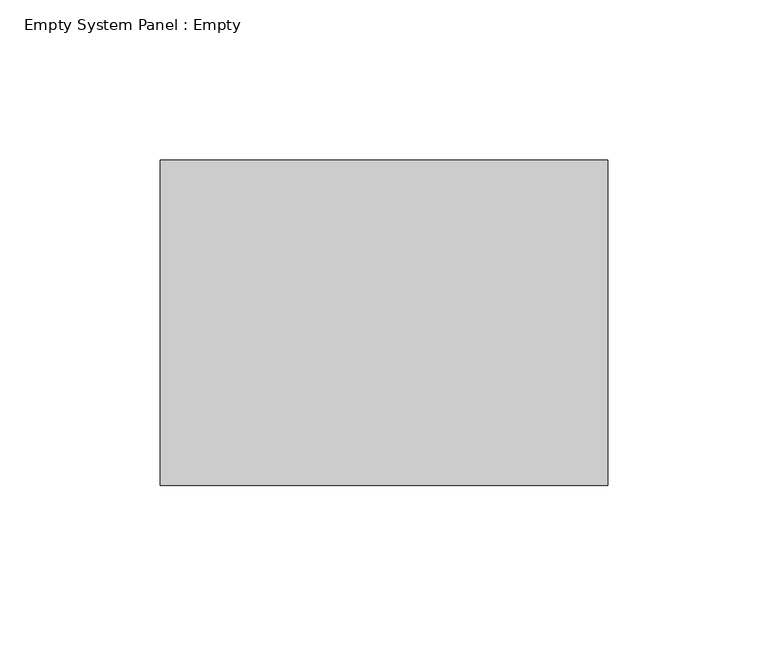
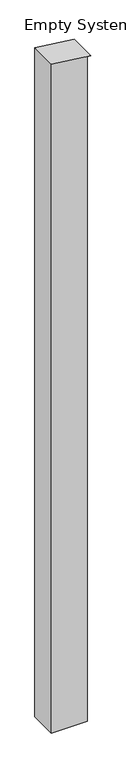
"""IFC4 building model written with IfcOpenShell, lengths in millimetres: plate geometry, Empty System Panel : Empty."""

import ifcopenshell
import ifcopenshell.guid

model = None  # the IFC model being written
_history = None  # IfcOwnerHistory: only IFC2X3 demands one
_inside = {}  # id of a spatial element -> (the spatial element, [elements in it])
_under = {}  # id of a project, library or spatial element -> (it, [spatial elements below it])
_declared = {}  # id of a project -> (the project, [libraries it declares])
_typed = {}  # id of a type object -> (the type object, [elements of that type])
_made_of = {}  # id of a material, layer set ... -> (it, [elements and type objects made of it])


def new_model(schema):
    """Start an empty IFC model of exactly this schema.

    Asked for "IFC4X3", IfcOpenShell would pick the latest addendum, in which some entities
    have other attributes; the version numbers below select the first issue.
    IFC2X3 requires an IfcOwnerHistory on every rooted entity: one is made here for all.
    """
    global model, _history
    if schema == "IFC4X3":
        model = ifcopenshell.file(schema_version=(4, 3, 0, 0))
    else:
        model = ifcopenshell.file(schema=schema)
    _inside.clear()
    _under.clear()
    _declared.clear()
    _typed.clear()
    _made_of.clear()
    _history = None
    if model.schema == "IFC2X3":
        org = make("IfcOrganization", Name="unknown")
        user = make(
            "IfcPersonAndOrganization",
            ThePerson=make("IfcPerson", FamilyName="unknown"),
            TheOrganization=org,
        )
        app = make(
            "IfcApplication",
            ApplicationDeveloper=org,
            Version="unknown",
            ApplicationFullName="unknown",
            ApplicationIdentifier="unknown",
        )
        _history = make(
            "IfcOwnerHistory",
            OwningUser=user,
            OwningApplication=app,
            ChangeAction="ADDED",
            CreationDate=0,
        )
    return model


def make(cls, **values):
    """One entity of the class cls with the attributes given. An attribute that is None is left unset."""
    return model.create_entity(
        cls, **{name: value for name, value in values.items() if value is not None}
    )


def rooted(cls, **values):
    """An entity with a GlobalId (a new one), such as an element, a storey or a relation."""
    return make(cls, GlobalId=ifcopenshell.guid.new(), OwnerHistory=_history, **values)


def si_unit(unit_type, name, prefix=None):
    """IfcSIUnit, for example si_unit("LENGTHUNIT", "METRE", prefix="MILLI")."""
    return make("IfcSIUnit", UnitType=unit_type, Prefix=prefix, Name=name)


def assignment(units):
    """IfcUnitAssignment: the units of a project."""
    return None if units is None else make("IfcUnitAssignment", Units=units)


def point(xyz):
    """IfcCartesianPoint."""
    return None if xyz is None else make("IfcCartesianPoint", Coordinates=xyz)


def direction(xyz):
    """IfcDirection."""
    return None if xyz is None else make("IfcDirection", DirectionRatios=xyz)


def frame(location, z_axis=None, x_axis=None):
    """IfcAxis2Placement3D, a coordinate frame: its origin and axes. An axis left out is left unset."""
    return make(
        "IfcAxis2Placement3D",
        Location=point(location),
        Axis=direction(z_axis),
        RefDirection=direction(x_axis),
    )


def origin():
    """The frame at (0, 0, 0) with its axes left unset."""
    return frame((0.0, 0.0, 0.0))


def place(relative_to, where):
    """IfcLocalPlacement: puts the frame where relative to a parent placement (None: the world)."""
    return make(
        "IfcLocalPlacement", PlacementRelTo=relative_to, RelativePlacement=where
    )


def context(
    kind, dimensions, precision=None, world=None, true_north=None, identifier=None
):
    """IfcGeometricRepresentationContext, for example the 3D "Model" context."""
    return make(
        "IfcGeometricRepresentationContext",
        ContextIdentifier=identifier,
        ContextType=kind,
        CoordinateSpaceDimension=dimensions,
        Precision=precision,
        WorldCoordinateSystem=world,
        TrueNorth=true_north,
    )


def project(units=None, contexts=None):
    """IfcProject with its units and contexts."""
    return rooted(
        "IfcProject",
        Name="project",
        RepresentationContexts=contexts,
        UnitsInContext=assignment(units),
    )


def spatial(cls, under=None, at=None, **own):
    """A site, building, storey or space (cls), placed at a placement, below another one or the project."""
    s = rooted(cls, ObjectPlacement=at, **own)
    if under is not None:
        _under.setdefault(under.id(), (under, []))[1].append(s)
    return s


def polyline(points):
    """IfcPolyline through the points."""
    return make("IfcPolyline", Points=[point(p) for p in points])


def outline(outer, holes=None, kind="AREA"):
    """IfcArbitraryClosedProfileDef: a profile drawn as a closed curve; with holes, ...WithVoids."""
    if holes is None:
        return make("IfcArbitraryClosedProfileDef", ProfileType=kind, OuterCurve=outer)
    return make(
        "IfcArbitraryProfileDefWithVoids",
        ProfileType=kind,
        OuterCurve=outer,
        InnerCurves=holes,
    )


def extrude(swept, where, along, depth):
    """IfcExtrudedAreaSolid: the profile swept, set in the frame where, extruded along a direction by depth."""
    return make(
        "IfcExtrudedAreaSolid",
        SweptArea=swept,
        Position=where,
        ExtrudedDirection=direction(along),
        Depth=depth,
    )


def shape(context_of_items, identifier, shape_type, items):
    """IfcShapeRepresentation: the items that make up one representation, for example the "Body"."""
    return make(
        "IfcShapeRepresentation",
        ContextOfItems=context_of_items,
        RepresentationIdentifier=identifier,
        RepresentationType=shape_type,
        Items=items,
    )


def source(mapping_origin, context_of_items, identifier, shape_type, items):
    """IfcRepresentationMap: a shape defined once, which mapped items show again and again."""
    return make(
        "IfcRepresentationMap",
        MappingOrigin=mapping_origin,
        MappedRepresentation=shape(context_of_items, identifier, shape_type, items),
    )


def transform(
    local_origin,
    x_axis=None,
    y_axis=None,
    z_axis=None,
    scale=None,
    scale2=None,
    scale3=None,
    uniform=True,
):
    """IfcCartesianTransformationOperator3D, or its non-uniform kind. x_axis, y_axis, z_axis: its Axis1, 2, 3."""
    if uniform:
        return make(
            "IfcCartesianTransformationOperator3D",
            Axis1=direction(x_axis),
            Axis2=direction(y_axis),
            LocalOrigin=point(local_origin),
            Scale=scale,
            Axis3=direction(z_axis),
        )
    return make(
        "IfcCartesianTransformationOperator3DnonUniform",
        Axis1=direction(x_axis),
        Axis2=direction(y_axis),
        LocalOrigin=point(local_origin),
        Scale=scale,
        Axis3=direction(z_axis),
        Scale2=scale2,
        Scale3=scale3,
    )


def mapped(mapping_source, mapping_target):
    """IfcMappedItem: shows the shape of a source again, moved by a transform."""
    return make(
        "IfcMappedItem", MappingSource=mapping_source, MappingTarget=mapping_target
    )


def made_of(thing, what):
    """Note that an element or type object is made of a material, layer set ...; save() writes the relation."""
    if what is not None:
        _made_of.setdefault(what.id(), (what, []))[1].append(thing)
    return thing


def element(
    cls,
    number,
    at=None,
    inside=None,
    cuts=None,
    type_object=None,
    material=None,
    context=None,
    identifier="Body",
    shape_type=None,
    held_by="IfcProductDefinitionShape",
    body=None,
    shapes=None,
    **own,
):
    """One element of the class cls, such as IfcWall. Its Tag is "e" and its number.

    at: its placement. inside: the storey or other place that contains it. cuts: it is an
    opening in that element (IfcRelVoidsElement). A single representation is given by context,
    identifier, shape_type and body (its items); several are given by shapes. held_by: the class
    of the entity that holds the representations. save() writes the other relations.
    """
    e = rooted(cls, Tag="e%d" % number, ObjectPlacement=at, **own)
    if body is not None:
        shapes = [shape(context, identifier, shape_type, body)]
    if shapes is not None:
        e.Representation = make(held_by, Representations=shapes)
    if inside is not None:
        _inside.setdefault(inside.id(), (inside, []))[1].append(e)
    if cuts is not None:
        rooted(
            "IfcRelVoidsElement", RelatingBuildingElement=cuts, RelatedOpeningElement=e
        )
    if type_object is not None:
        _typed.setdefault(type_object.id(), (type_object, []))[1].append(e)
    return made_of(e, material)


def aggregate(whole, parts):
    """IfcRelAggregates: a whole, such as a stair, and the parts it consists of."""
    return rooted("IfcRelAggregates", RelatingObject=whole, RelatedObjects=parts)


def save(model, path):
    """Write the relations noted so far, then the file.

    IfcRelAggregates (storeys below a building ...), IfcRelContainedInSpatialStructure (elements
    in a storey), IfcRelDefinesByType, IfcRelAssociatesMaterial and IfcRelDeclares: one each for
    every whole, place, type object, material and project.
    """
    for whole, parts in _under.values():
        aggregate(whole, parts)
    for where, things in _inside.values():
        rooted(
            "IfcRelContainedInSpatialStructure",
            RelatedElements=things,
            RelatingStructure=where,
        )
    for kind, things in _typed.values():
        rooted("IfcRelDefinesByType", RelatedObjects=things, RelatingType=kind)
    for what, things in _made_of.values():
        rooted("IfcRelAssociatesMaterial", RelatedObjects=things, RelatingMaterial=what)
    for by, libraries in _declared.values():
        rooted("IfcRelDeclares", RelatingContext=by, RelatedDefinitions=libraries)
    model.write(path)


def empty_system_panel_empty_5e2ea975(model_context):
    return source(origin(), model_context, "Body", "SweptSolid", [
        extrude(outline(polyline([(0.0, -69.85), (0.0, 57.15), (2485.6717634, 57.15), (2485.6717634, 69.85), (2501.2969533, -69.85), (0.0, -69.85)])), frame((0.0, -50.8, 0.0), z_axis=(0.0, 1.0, 0.0), x_axis=(0.0, 0.0, 1.0)), (0.0, 0.0, 1.0), 101.6),
    ])


if __name__ == "__main__":
    model = new_model("IFC4")
    model_context = context("Model", 3, world=origin())
    ifc_project = project(units=[si_unit("LENGTHUNIT", "METRE", prefix="MILLI")], contexts=[model_context])
    site = spatial("IfcSite", under=ifc_project)
    building = spatial("IfcBuilding", under=site)
    placement = place(None, origin())
    empty_system_panel_empty_shape = empty_system_panel_empty_5e2ea975(model_context)
    element("IfcPlate", 1, ObjectType="Empty System Panel : Empty", at=placement, inside=building, context=model_context, shape_type="MappedRepresentation", body=[
        mapped(empty_system_panel_empty_shape, transform((0.0, 0.0, 0.0), x_axis=(1.0, 0.0, 0.0), y_axis=(0.0, 1.0, 0.0), z_axis=(0.0, 0.0, 1.0))),
    ])
    save(model, "model.ifc")
